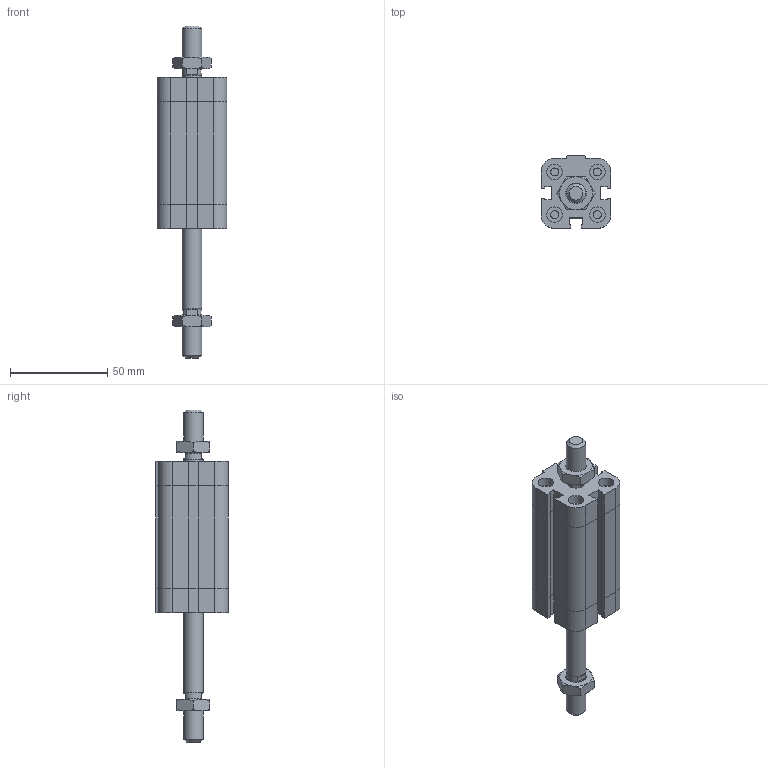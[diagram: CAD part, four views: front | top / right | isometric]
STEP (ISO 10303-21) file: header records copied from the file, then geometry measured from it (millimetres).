
FILE_DESCRIPTION((''),'2;1');
FILE_NAME('I:\Area Tecnica\Disegni\VARIE-3D\Componenti\EUROPE\15##_###_####_04_#\1581_20_0040_04_1.iam.stp','2009-04-20T14:49:56',(''),(''),'Autodesk Inventor 2009','Autodesk Inventor 2009','');
FILE_SCHEMA(('AUTOMOTIVE_DESIGN { 1 0 10303 214 1 1 1 1 }'));
Length unit declared in the file: millimetre
Products named in the file (4): 1581_20_0040_04_1; 1581_20_0040_03_1_C; 1561_20_0040_04_1_S; DBFM10
Assembly tree (4 placements, depth 2):
  1581_20_0040_04_1
    1581_20_0040_03_1_C
    1561_20_0040_04_1_S
    DBFM10  x2
Bounding box: 36 x 37.5 x 171 mm (x, y, z)
Volume: 96809.5 mm3; surface area: 28232.6 mm2
Topology: 4 solids, 4 shells, 222 faces, 483 edges, 289 vertices
Faces by surface type: plane 129, cone 35, bspline 33, cylinder 25
Full cylindrical faces by diameter (mm): 4.134 x4, 7.9 x1, 8 x4, 9.8 x2, 10 x2
Entity records: 5450 total; most frequent: CARTESIAN_POINT 1222, DIRECTION 802, ORIENTED_EDGE 772, EDGE_CURVE 386, AXIS2_PLACEMENT_3D 272, EDGE_LOOP 258, VECTOR 258, LINE 258
